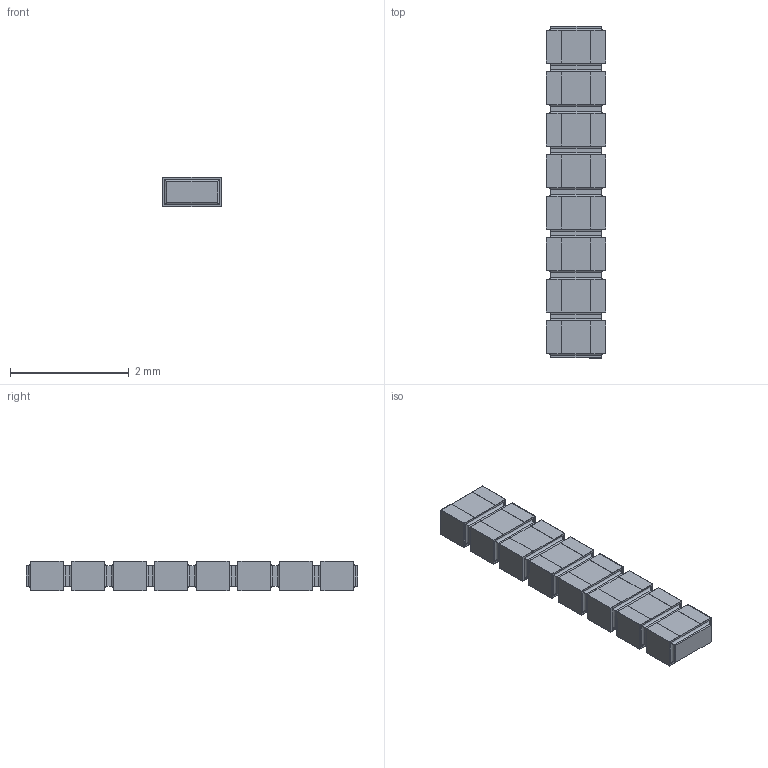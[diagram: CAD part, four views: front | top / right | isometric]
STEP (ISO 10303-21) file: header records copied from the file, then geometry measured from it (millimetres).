
FILE_DESCRIPTION(/* description */ (''),/* implementation_level */ '2;1');
FILE_NAME(/* name */ 'S:\DOCUMENT\AUTOCAD\3D_Modèles\10_3D-pour-VISHAY-COM\PRA\PRA074\PRA074-I2_à_I8\10_IGES\PRA074I8_B-or-N-or-G.stp',/* time_stamp */ '2017-12-19T14:56:44+01:00',/* author */ ('dparmentier'),/* organization */ ('unknown'),/* preprocessor_version */ 'ST-DEVELOPER v17',/* originating_system */ 'Autodesk Inventor 2018',/* authorisation */ '');
FILE_SCHEMA (('AUTOMOTIVE_DESIGN { 1 0 10303 214 3 1 1 }'));
Length unit declared in the file: millimetre
Products named in the file (1): PRA074I8_B-or-N-or-G
Bounding box: 1 x 5.6 x 0.5 mm (x, y, z)
Volume: 2.6 mm3; surface area: 36.6 mm2
Topology: 17 solids, 17 shells, 310 faces, 716 edges, 456 vertices
Faces by surface type: plane 246, cylinder 64
Entity records: 8609 total; most frequent: CARTESIAN_POINT 1483, ORIENTED_EDGE 1432, DIRECTION 1402, EDGE_CURVE 716, LINE 652, VECTOR 652, VERTEX_POINT 456, AXIS2_PLACEMENT_3D 375
